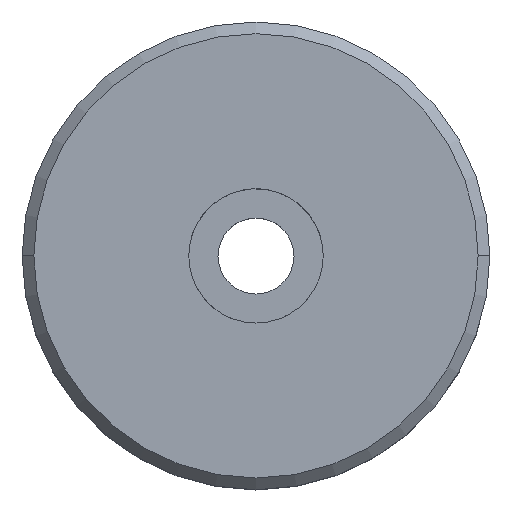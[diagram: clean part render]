
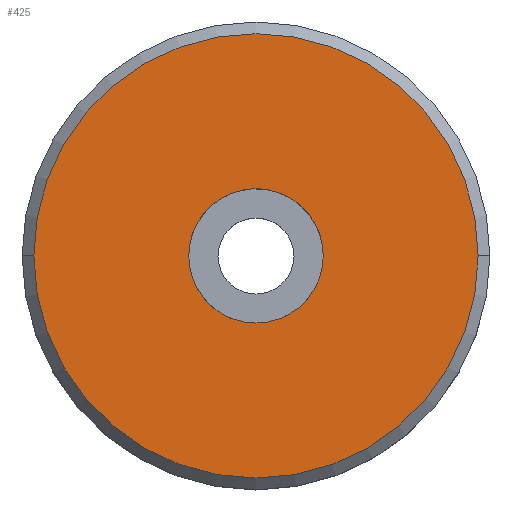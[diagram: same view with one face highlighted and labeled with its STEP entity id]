
A CAD part, top view. The second image highlights one B-rep face of the part: STEP entity #425.
In plain terms, the highlighted planar face has unit normal (0, 0, 1).
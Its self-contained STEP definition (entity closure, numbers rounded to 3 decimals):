
#311=CARTESIAN_POINT('Vertex',(-11.5,0.,30.)) ;
#318=CARTESIAN_POINT('Vertex',(11.5,0.,30.)) ;
#321=CARTESIAN_POINT('Axis2P3D Location',(0.,0.,30.)) ;
#338=CARTESIAN_POINT('Axis2P3D Location',(0.,0.,30.)) ;
#398=CARTESIAN_POINT('Axis2P3D Location',(0.,0.,30.)) ;
#403=CARTESIAN_POINT('Axis2P3D Location',(0.,0.,30.)) ;
#407=CARTESIAN_POINT('Vertex',(-38.,0.,30.)) ;
#409=CARTESIAN_POINT('Vertex',(38.,0.,30.)) ;
#412=CARTESIAN_POINT('Axis2P3D Location',(0.,0.,30.)) ;
#322=DIRECTION('Axis2P3D Direction',(0.,-0.,1.)) ;
#339=DIRECTION('Axis2P3D Direction',(0.,-0.,1.)) ;
#399=DIRECTION('Axis2P3D Direction',(0.,0.,1.)) ;
#400=DIRECTION('Axis2P3D XDirection',(1.,0.,-0.)) ;
#404=DIRECTION('Axis2P3D Direction',(0.,0.,1.)) ;
#413=DIRECTION('Axis2P3D Direction',(0.,0.,1.)) ;
#323=AXIS2_PLACEMENT_3D('Circle Axis2P3D',#321,#322,$) ;
#340=AXIS2_PLACEMENT_3D('Circle Axis2P3D',#338,#339,$) ;
#401=AXIS2_PLACEMENT_3D('Plane Axis2P3D',#398,#399,#400) ;
#405=AXIS2_PLACEMENT_3D('Circle Axis2P3D',#403,#404,$) ;
#414=AXIS2_PLACEMENT_3D('Circle Axis2P3D',#412,#413,$) ;
#418=ORIENTED_EDGE('',*,*,#411,.T.) ;
#419=ORIENTED_EDGE('',*,*,#416,.T.) ;
#422=ORIENTED_EDGE('',*,*,#325,.F.) ;
#423=ORIENTED_EDGE('',*,*,#342,.F.) ;
#424=FACE_BOUND('',#421,.T.) ;
#425=ADVANCED_FACE('Foro lamato per Vite M12 a testa cilindrica-1',(#420,#424),#402,.T.) ;
#324=CIRCLE('generated circle',#323,11.5) ;
#341=CIRCLE('generated circle',#340,11.5) ;
#406=CIRCLE('generated circle',#405,38.) ;
#415=CIRCLE('generated circle',#414,38.) ;
#325=EDGE_CURVE('',#319,#312,#324,.T.) ;
#342=EDGE_CURVE('',#312,#319,#341,.T.) ;
#411=EDGE_CURVE('',#408,#410,#406,.T.) ;
#416=EDGE_CURVE('',#410,#408,#415,.T.) ;
#417=EDGE_LOOP('',(#418,#419)) ;
#421=EDGE_LOOP('',(#422,#423)) ;
#420=FACE_OUTER_BOUND('',#417,.T.) ;
#402=PLANE('Plane',#401) ;
#312=VERTEX_POINT('',#311) ;
#319=VERTEX_POINT('',#318) ;
#408=VERTEX_POINT('',#407) ;
#410=VERTEX_POINT('',#409) ;
